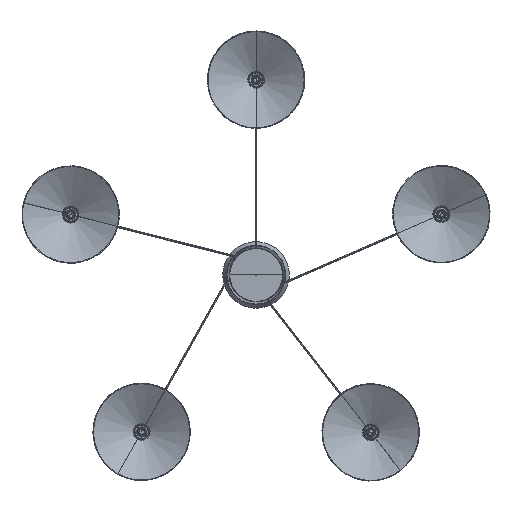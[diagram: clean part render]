
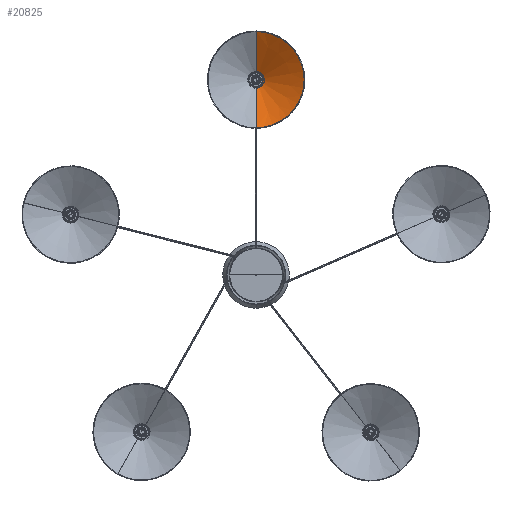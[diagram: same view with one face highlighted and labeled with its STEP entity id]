
A CAD part, top view. The second image highlights one B-rep face of the part: STEP entity #20825.
In plain terms, the highlighted conical face has half-angle 60 degrees and reference radius 180.744 mm.
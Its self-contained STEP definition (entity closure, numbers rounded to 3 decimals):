
#210=CONICAL_SURFACE('',#22945,180.744,1.047);
#1054=B_SPLINE_CURVE_WITH_KNOTS('',3,(#43684,#43685,#43686,#43687),
 .UNSPECIFIED.,.F.,.F.,(4,4),(0.8,1.),.UNSPECIFIED.);
#1055=B_SPLINE_CURVE_WITH_KNOTS('',3,(#43689,#43690,#43691,#43692,#43693,
#43694),.UNSPECIFIED.,.F.,.F.,(4,1,1,4),(0.2,0.4,0.6,0.8),.UNSPECIFIED.);
#1056=B_SPLINE_CURVE_WITH_KNOTS('',3,(#43696,#43697,#43698,#43699),
 .UNSPECIFIED.,.F.,.F.,(4,4),(0.,0.2),.UNSPECIFIED.);
#3084=FACE_OUTER_BOUND('',#4515,.T.);
#4515=EDGE_LOOP('',(#17315,#17316,#17317,#17318,#17319,#17320));
#5794=LINE('',#43771,#6961);
#5795=LINE('',#43774,#6962);
#6961=VECTOR('',#27688,304.8);
#6962=VECTOR('',#27691,304.8);
#7988=CIRCLE('',#22946,197.387);
#9442=VERTEX_POINT('',#43630);
#9443=VERTEX_POINT('',#43683);
#9444=VERTEX_POINT('',#43688);
#9445=VERTEX_POINT('',#43695);
#9448=VERTEX_POINT('',#43770);
#9449=VERTEX_POINT('',#43772);
#12128=EDGE_CURVE('',#9443,#9442,#1054,.T.);
#12129=EDGE_CURVE('',#9444,#9443,#1055,.T.);
#12130=EDGE_CURVE('',#9445,#9444,#1056,.T.);
#12135=EDGE_CURVE('',#9448,#9442,#5794,.T.);
#12136=EDGE_CURVE('',#9449,#9448,#7988,.T.);
#12137=EDGE_CURVE('',#9445,#9449,#5795,.T.);
#17315=ORIENTED_EDGE('',*,*,#12130,.T.);
#17316=ORIENTED_EDGE('',*,*,#12129,.T.);
#17317=ORIENTED_EDGE('',*,*,#12128,.T.);
#17318=ORIENTED_EDGE('',*,*,#12135,.F.);
#17319=ORIENTED_EDGE('',*,*,#12136,.F.);
#17320=ORIENTED_EDGE('',*,*,#12137,.F.);
#20825=ADVANCED_FACE('',(#3084),#210,.F.);
#22945=AXIS2_PLACEMENT_3D('',#43769,#27686,#27687);
#22946=AXIS2_PLACEMENT_3D('',#43773,#27689,#27690);
#27686=DIRECTION('center_axis',(0.,0.,
-1.));
#27687=DIRECTION('ref_axis',(-1.,0.,0.));
#27688=DIRECTION('',(0.,0.866,0.5));
#27689=DIRECTION('center_axis',(0.,0.,
1.));
#27690=DIRECTION('ref_axis',(0.588,0.809,0.));
#27691=DIRECTION('',(0.,0.866,-0.5));
#43630=CARTESIAN_POINT('',(0.,769.04,925.619));
#43683=CARTESIAN_POINT('',(-18.198,774.953,925.619));
#43684=CARTESIAN_POINT('Ctrl Pts',(-18.198,774.953,925.619));
#43685=CARTESIAN_POINT('Ctrl Pts',(-13.004,771.085,925.619));
#43686=CARTESIAN_POINT('Ctrl Pts',(-6.652,768.811,925.619));
#43687=CARTESIAN_POINT('Ctrl Pts',(0.,769.04,
925.619));
#43688=CARTESIAN_POINT('',(-18.198,825.047,925.619));
#43689=CARTESIAN_POINT('Ctrl Pts',(-18.198,825.047,925.619));
#43690=CARTESIAN_POINT('Ctrl Pts',(-23.392,821.179,925.619));
#43691=CARTESIAN_POINT('Ctrl Pts',(-31.462,810.254,925.619));
#43692=CARTESIAN_POINT('Ctrl Pts',(-31.462,789.746,925.619));
#43693=CARTESIAN_POINT('Ctrl Pts',(-23.392,778.821,925.619));
#43694=CARTESIAN_POINT('Ctrl Pts',(-18.198,774.953,925.619));
#43695=CARTESIAN_POINT('',(0.,830.96,925.619));
#43696=CARTESIAN_POINT('Ctrl Pts',(0.,830.96,
925.619));
#43697=CARTESIAN_POINT('Ctrl Pts',(-6.652,831.189,925.619));
#43698=CARTESIAN_POINT('Ctrl Pts',(-13.004,828.915,925.619));
#43699=CARTESIAN_POINT('Ctrl Pts',(-18.198,825.047,925.619));
#43769=CARTESIAN_POINT('Origin',(0.,800.,
839.141));
#43770=CARTESIAN_POINT('',(0.,602.613,829.533));
#43771=CARTESIAN_POINT('',(0.,602.613,829.533));
#43772=CARTESIAN_POINT('',(0.,997.387,829.533));
#43773=CARTESIAN_POINT('Origin',(0.,800.,
829.533));
#43774=CARTESIAN_POINT('',(0.,830.96,925.619));
